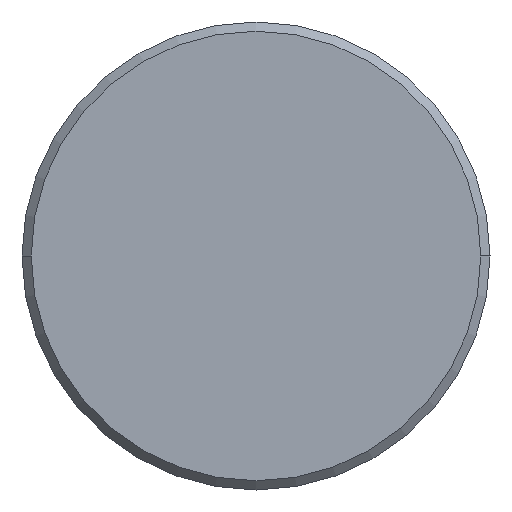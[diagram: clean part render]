
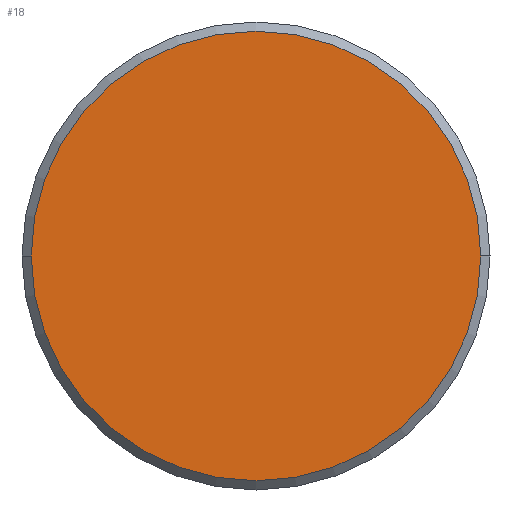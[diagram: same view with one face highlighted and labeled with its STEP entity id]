
A CAD part, left-side view. The second image highlights one B-rep face of the part: STEP entity #18.
In plain terms, the highlighted planar face has unit normal (-1, 0, 0).
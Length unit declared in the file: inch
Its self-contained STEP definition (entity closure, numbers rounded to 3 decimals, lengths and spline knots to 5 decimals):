
#8 = CIRCLE ( 'NONE', #356, 0.09756 ) ;
#10 = ORIENTED_EDGE ( 'NONE', *, *, #340, .T. ) ;
#18 = ADVANCED_FACE ( 'NONE', ( #293 ), #244, .T. ) ;
#21 = DIRECTION ( 'NONE',  ( -1., 0., 0. ) ) ;
#43 = DIRECTION ( 'NONE',  ( -1., 0., 0. ) ) ;
#60 = AXIS2_PLACEMENT_3D ( 'NONE', #87, #347, #180 ) ;
#78 = CARTESIAN_POINT ( 'NONE',  ( 0., 0., 0. ) ) ;
#87 = CARTESIAN_POINT ( 'NONE',  ( 0., 0., 0. ) ) ;
#122 = CARTESIAN_POINT ( 'NONE',  ( 0., 0.09756, 0. ) ) ;
#137 = CIRCLE ( 'NONE', #60, 0.09756 ) ;
#152 = ORIENTED_EDGE ( 'NONE', *, *, #290, .T. ) ;
#159 = AXIS2_PLACEMENT_3D ( 'NONE', #297, #43, #187 ) ;
#180 = DIRECTION ( 'NONE',  ( 0., -1., 0. ) ) ;
#187 = DIRECTION ( 'NONE',  ( 0., -1., 0. ) ) ;
#244 = PLANE ( 'NONE',  #159 ) ;
#290 = EDGE_CURVE ( 'NONE', #348, #304, #8, .T. ) ;
#293 = FACE_OUTER_BOUND ( 'NONE', #351, .T. ) ;
#297 = CARTESIAN_POINT ( 'NONE',  ( 0., 0., 0. ) ) ;
#304 = VERTEX_POINT ( 'NONE', #341 ) ;
#339 = DIRECTION ( 'NONE',  ( 0., -1., 0. ) ) ;
#340 = EDGE_CURVE ( 'NONE', #304, #348, #137, .T. ) ;
#341 = CARTESIAN_POINT ( 'NONE',  ( 0., -0.09756, 0. ) ) ;
#347 = DIRECTION ( 'NONE',  ( -1., 0., 0. ) ) ;
#348 = VERTEX_POINT ( 'NONE', #122 ) ;
#351 = EDGE_LOOP ( 'NONE', ( #152, #10 ) ) ;
#356 = AXIS2_PLACEMENT_3D ( 'NONE', #78, #21, #339 ) ;
